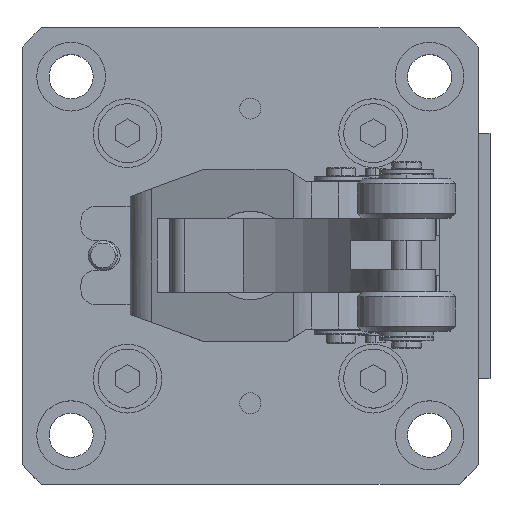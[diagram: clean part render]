
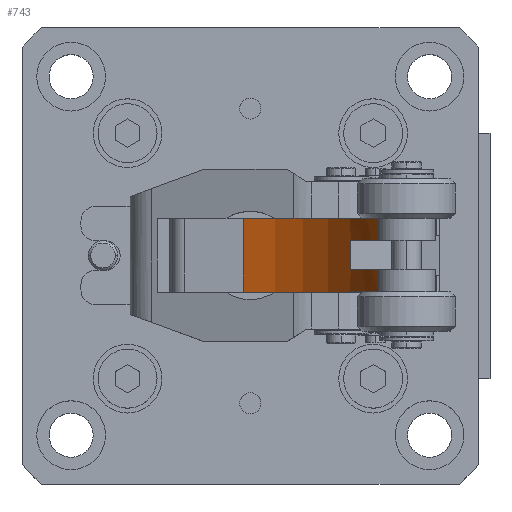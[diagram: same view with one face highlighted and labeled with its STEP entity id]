
A CAD part, top view. The second image highlights one B-rep face of the part: STEP entity #743.
In plain terms, the highlighted cylindrical face has radius 1168.4 mm (diameter 2336.8 mm), a partial arc.
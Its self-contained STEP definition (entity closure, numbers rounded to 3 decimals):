
#694 = EDGE_LOOP ( 'NONE', ( #735, #732, #747, #725, #756, #730, #757, #749 ) ) ;
#725 = ORIENTED_EDGE ( 'NONE', *, *, #31783, .F. ) ;
#726 = VERTEX_POINT ( 'NONE', #34860 ) ;
#728 = VERTEX_POINT ( 'NONE', #34936 ) ;
#729 = EDGE_CURVE ( 'NONE', #728, #726, #34948, .T. ) ;
#730 = ORIENTED_EDGE ( 'NONE', *, *, #729, .F. ) ;
#732 = ORIENTED_EDGE ( 'NONE', *, *, #31864, .F. ) ;
#735 = ORIENTED_EDGE ( 'NONE', *, *, #31704, .F. ) ;
#743 = ADVANCED_FACE ( 'NONE', ( #35011 ), #35028, .F. ) ;
#747 = ORIENTED_EDGE ( 'NONE', *, *, #31729, .F. ) ;
#749 = ORIENTED_EDGE ( 'NONE', *, *, #14268, .F. ) ;
#756 = ORIENTED_EDGE ( 'NONE', *, *, #765, .F. ) ;
#757 = ORIENTED_EDGE ( 'NONE', *, *, #758, .F. ) ;
#758 = EDGE_CURVE ( 'NONE', #14266, #728, #34997, .T. ) ;
#765 = EDGE_CURVE ( 'NONE', #726, #31814, #35078, .T. ) ;
#14266 = VERTEX_POINT ( 'NONE', #37574 ) ;
#14268 = EDGE_CURVE ( 'NONE', #31695, #14266, #37567, .T. ) ;
#30373 = CARTESIAN_POINT ( 'NONE',  ( 391.655, 76.2, 2228.344 ) ) ;
#31053 = DIRECTION ( 'NONE',  ( 0., -1., 0. ) ) ;
#31054 = VECTOR ( 'NONE', #31053, 1000. ) ;
#31064 = LINE ( 'NONE', #31151, #31149 ) ;
#31070 = CARTESIAN_POINT ( 'NONE',  ( 391.655, 190.5, 2228.344 ) ) ;
#31072 = LINE ( 'NONE', #31070, #31054 ) ;
#31094 = CARTESIAN_POINT ( 'NONE',  ( 391.655, -76.2, 2228.344 ) ) ;
#31099 = CARTESIAN_POINT ( 'NONE',  ( 534.175, 76.2, 2546.096 ) ) ;
#31144 = CARTESIAN_POINT ( 'NONE',  ( 534.175, 190.5, 2546.096 ) ) ;
#31147 = DIRECTION ( 'NONE',  ( 0., -1., 0. ) ) ;
#31149 = VECTOR ( 'NONE', #31147, 1000. ) ;
#31151 = CARTESIAN_POINT ( 'NONE',  ( 534.175, 190.5, 2546.096 ) ) ;
#31188 = DIRECTION ( 'NONE',  ( 1., 0., 0. ) ) ;
#31190 = DIRECTION ( 'NONE',  ( 0., -1., 0. ) ) ;
#31192 = CARTESIAN_POINT ( 'NONE',  ( -591.257, 190.5, 2860.042 ) ) ;
#31201 = AXIS2_PLACEMENT_3D ( 'NONE', #31192, #31190, #31188 ) ;
#31208 = CIRCLE ( 'NONE', #31201, 1168.4 ) ;
#31293 = CARTESIAN_POINT ( 'NONE',  ( -165.084, 190.5, 1772.138 ) ) ;
#31333 = DIRECTION ( 'NONE',  ( 1., 0., 0. ) ) ;
#31335 = DIRECTION ( 'NONE',  ( 0., 1., 0. ) ) ;
#31342 = CARTESIAN_POINT ( 'NONE',  ( -591.257, 76.2, 2860.042 ) ) ;
#31343 = AXIS2_PLACEMENT_3D ( 'NONE', #31342, #31335, #31333 ) ;
#31344 = CIRCLE ( 'NONE', #31343, 1168.4 ) ;
#31694 = VERTEX_POINT ( 'NONE', #30373 ) ;
#31695 = VERTEX_POINT ( 'NONE', #31094 ) ;
#31704 = EDGE_CURVE ( 'NONE', #31694, #31695, #31072, .T. ) ;
#31729 = EDGE_CURVE ( 'NONE', #31752, #31750, #31064, .T. ) ;
#31750 = VERTEX_POINT ( 'NONE', #31099 ) ;
#31752 = VERTEX_POINT ( 'NONE', #31144 ) ;
#31783 = EDGE_CURVE ( 'NONE', #31814, #31752, #31208, .T. ) ;
#31814 = VERTEX_POINT ( 'NONE', #31293 ) ;
#31864 = EDGE_CURVE ( 'NONE', #31750, #31694, #31344, .T. ) ;
#34860 = CARTESIAN_POINT ( 'NONE',  ( -165.084, -190.5, 1772.138 ) ) ;
#34925 = DIRECTION ( 'NONE',  ( 1., 0., 0. ) ) ;
#34926 = DIRECTION ( 'NONE',  ( 0., 1., 0. ) ) ;
#34928 = AXIS2_PLACEMENT_3D ( 'NONE', #34934, #34926, #34925 ) ;
#34934 = CARTESIAN_POINT ( 'NONE',  ( -591.257, -190.5, 2860.042 ) ) ;
#34936 = CARTESIAN_POINT ( 'NONE',  ( 534.175, -190.5, 2546.096 ) ) ;
#34948 = CIRCLE ( 'NONE', #34928, 1168.4 ) ;
#34995 = CARTESIAN_POINT ( 'NONE',  ( 534.175, 190.5, 2546.096 ) ) ;
#34997 = LINE ( 'NONE', #34995, #35087 ) ;
#34999 = DIRECTION ( 'NONE',  ( 1., 0., 0. ) ) ;
#35011 = FACE_OUTER_BOUND ( 'NONE', #694, .T. ) ;
#35023 = DIRECTION ( 'NONE',  ( 0., -1., 0. ) ) ;
#35028 = CYLINDRICAL_SURFACE ( 'NONE', #35046, 1168.4 ) ;
#35031 = CARTESIAN_POINT ( 'NONE',  ( -591.257, 190.5, 2860.042 ) ) ;
#35046 = AXIS2_PLACEMENT_3D ( 'NONE', #35031, #35023, #34999 ) ;
#35061 = DIRECTION ( 'NONE',  ( 0., 1., 0. ) ) ;
#35063 = VECTOR ( 'NONE', #35061, 1000. ) ;
#35065 = CARTESIAN_POINT ( 'NONE',  ( -165.084, 190.5, 1772.138 ) ) ;
#35078 = LINE ( 'NONE', #35065, #35063 ) ;
#35085 = DIRECTION ( 'NONE',  ( 0., -1., 0. ) ) ;
#35087 = VECTOR ( 'NONE', #35085, 1000. ) ;
#37562 = DIRECTION ( 'NONE',  ( 1., 0., 0. ) ) ;
#37563 = DIRECTION ( 'NONE',  ( 0., -1., 0. ) ) ;
#37564 = AXIS2_PLACEMENT_3D ( 'NONE', #37566, #37563, #37562 ) ;
#37566 = CARTESIAN_POINT ( 'NONE',  ( -591.257, -76.2, 2860.042 ) ) ;
#37567 = CIRCLE ( 'NONE', #37564, 1168.4 ) ;
#37574 = CARTESIAN_POINT ( 'NONE',  ( 534.175, -76.2, 2546.096 ) ) ;
